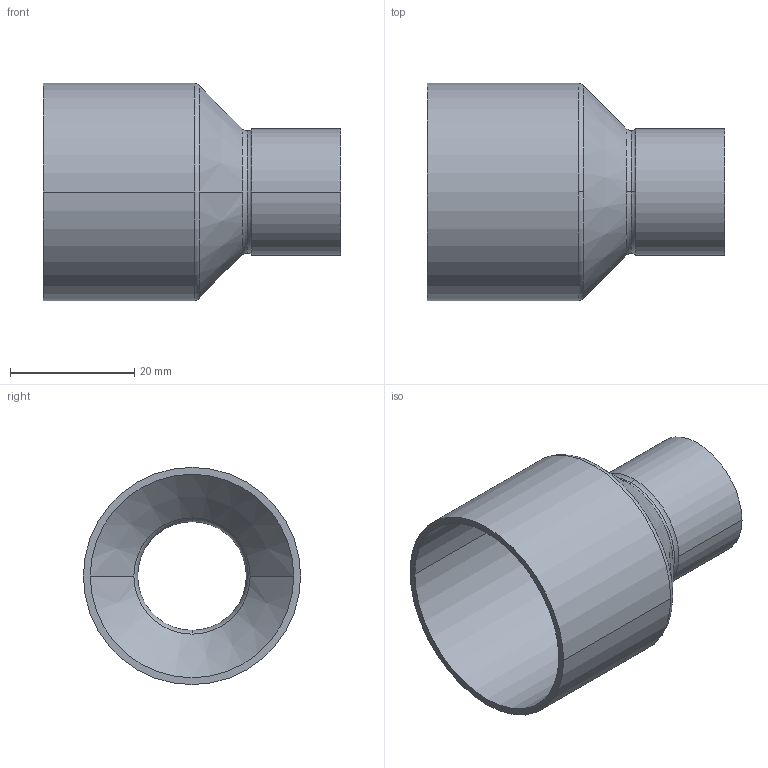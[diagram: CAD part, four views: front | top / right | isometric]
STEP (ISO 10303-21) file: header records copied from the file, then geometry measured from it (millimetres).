
FILE_DESCRIPTION((''),'2;1');
FILE_NAME('G:\Technics\CAD\Bauteile\Serie 15243\152433518.stp','2005-10-21T12:49:41',('boden'),(''),'Autodesk Inventor 8','Autodesk Inventor 8','');
FILE_SCHEMA(('AUTOMOTIVE_DESIGN { 1 0 10303 214 1 1 1 1 }'));
Length unit declared in the file: millimetre
Products named in the file (1): 152433518
Bounding box: 48 x 35 x 35 mm (x, y, z)
Volume: 4905.2 mm3; surface area: 9102.5 mm2
Topology: 1 solids, 1 shells, 24 faces, 60 edges, 38 vertices
Faces by surface type: cylinder 8, torus 6, bspline 4, cone 4, plane 2
Entity records: 931 total; most frequent: CARTESIAN_POINT 299, DIRECTION 150, ORIENTED_EDGE 120, AXIS2_PLACEMENT_3D 69, EDGE_CURVE 60, CIRCLE 48, VERTEX_POINT 38, EDGE_LOOP 26
